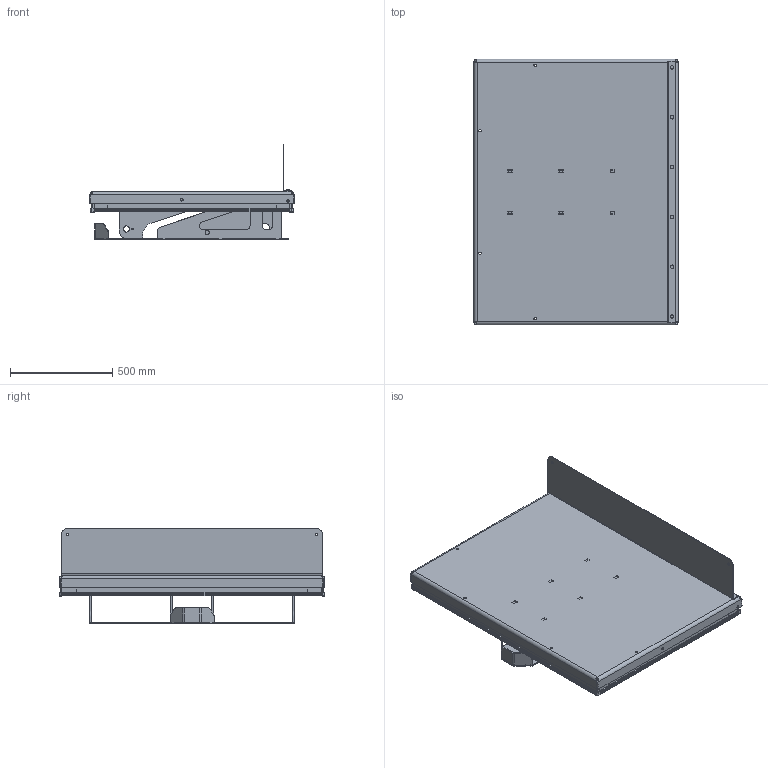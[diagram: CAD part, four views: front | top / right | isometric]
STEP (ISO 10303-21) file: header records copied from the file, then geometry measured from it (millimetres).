
FILE_DESCRIPTION(/* description */ ('Bottenramsplåt'),/* implementation_level */ '2;1');
FILE_NAME(/* name */ '\\EDMOFILE01\Users$\JOHSO\Desktop\34542_Botten.stp',/* time_stamp */ '2015-07-28T08:36:20+02:00',/* author */ ('JOHSO'),/* organization */ (''),/* preprocessor_version */ 'ST-DEVELOPER v15.6',/* originating_system */ 'Autodesk Inventor 2015',/* authorisation */ '');
FILE_SCHEMA (('AUTOMOTIVE_DESIGN { 1 0 10303 214 3 1 1 }'));
Products named in the file (25): 34548; 34427; 34547; 34549; 34509; 34544; 603937; 603938; 42394; 83212; 34543; 34559; 34558; 34546; 83208; 83209; 42289-1273; 42331; 42289-953; 43476; 33990; 42330; 43481; 34512; 34542
Assembly tree (57 placements, depth 3):
  34542
    34544
      34548
      34427
      34547  x2
      34549  x2
      34509
    34543
      603937
      603938  x2
      42394  x2
      83212  x4
    34558
      34559  x2
    34546
    83208  x6
    83209  x6
    34512
      42289-1273  x2
      42331  x4
      42289-953  x2
      43476  x4
      33990  x2
      42330  x4
      43481  x4
Bounding box: 999.66 x 1299.66 x 464 mm (x, y, z)
Volume: 25260097.1 mm3; surface area: 8108101.2 mm2
Topology: 53 solids, 61 shells, 4850 faces, 13314 edges, 8690 vertices
Faces by surface type: plane 2416, cylinder 1672, bspline 502, cone 148, torus 64, sphere 48
Full cylindrical faces by diameter (mm): 0.474 x2, 1 x4, 3 x4, 3.141 x4, 3.2 x4, 4 x16, 4.3 x4, 4.5 x2, 4.9 x2, 5 x4, 5.2 x6, 5.3 x2, 7.4 x16, 7.6 x4, 8 x12, 8.376 x6, 8.5 x4, 10 x12, 10.5 x4, 11 x6, 11.63 x4, 12 x8, 12.5 x12, 13 x4, 14.6 x6, 14.63 x6, 16 x8, 20.5 x2, 30.2 x4
Entity records: 92437 total; most frequent: CARTESIAN_POINT 25005, ORIENTED_EDGE 13994, DIRECTION 13212, EDGE_CURVE 6991, VERTEX_POINT 4669, AXIS2_PLACEMENT_3D 4476, LINE 4260, VECTOR 4260
